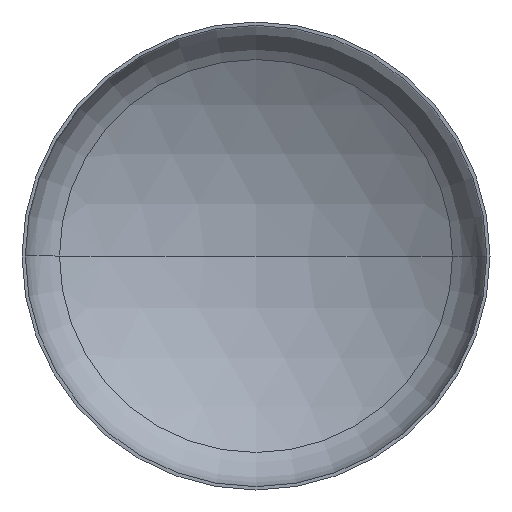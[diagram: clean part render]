
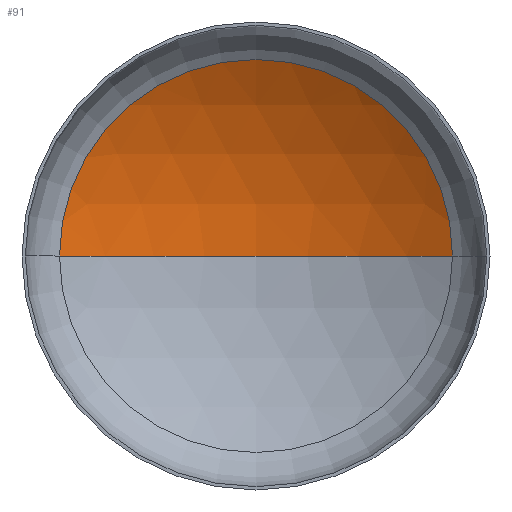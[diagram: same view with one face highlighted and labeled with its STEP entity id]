
A CAD part, front view. The second image highlights one B-rep face of the part: STEP entity #91.
In plain terms, the highlighted spherical face has radius 1120 mm.
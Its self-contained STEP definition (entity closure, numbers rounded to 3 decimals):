
#7 = AXIS2_PLACEMENT_3D ( 'NONE', #124, #126, #89 ) ;
#17 = EDGE_LOOP ( 'NONE', ( #59, #32, #156 ) ) ;
#25 = AXIS2_PLACEMENT_3D ( 'NONE', #175, #390, #406 ) ;
#32 = ORIENTED_EDGE ( 'NONE', *, *, #371, .T. ) ;
#52 = AXIS2_PLACEMENT_3D ( 'NONE', #248, #351, #378 ) ;
#59 = ORIENTED_EDGE ( 'NONE', *, *, #310, .F. ) ;
#72 = VERTEX_POINT ( 'NONE', #246 ) ;
#83 = VERTEX_POINT ( 'NONE', #319 ) ;
#89 = DIRECTION ( 'NONE',  ( 1., 0., 0. ) ) ;
#91 = ADVANCED_FACE ( 'NONE', ( #266 ), #393, .F. ) ;
#99 = CARTESIAN_POINT ( 'NONE',  ( 0., -740.325, 0. ) ) ;
#115 = VERTEX_POINT ( 'NONE', #314 ) ;
#124 = CARTESIAN_POINT ( 'NONE',  ( 0., 213.005, 0. ) ) ;
#126 = DIRECTION ( 'NONE',  ( 0., -1., 0. ) ) ;
#154 = AXIS2_PLACEMENT_3D ( 'NONE', #99, #235, #397 ) ;
#156 = ORIENTED_EDGE ( 'NONE', *, *, #347, .T. ) ;
#175 = CARTESIAN_POINT ( 'NONE',  ( 0., -740.325, 0. ) ) ;
#235 = DIRECTION ( 'NONE',  ( 0., 0., -1. ) ) ;
#246 = CARTESIAN_POINT ( 'NONE',  ( -587.845, 213.005, 0. ) ) ;
#248 = CARTESIAN_POINT ( 'NONE',  ( 0., -740.325, 0. ) ) ;
#266 = FACE_OUTER_BOUND ( 'NONE', #17, .T. ) ;
#310 = EDGE_CURVE ( 'NONE', #83, #72, #369, .T. ) ;
#314 = CARTESIAN_POINT ( 'NONE',  ( 587.845, 213.005, 0. ) ) ;
#319 = CARTESIAN_POINT ( 'NONE',  ( 0., 379.675, 0. ) ) ;
#338 = CIRCLE ( 'NONE', #154, 1120. ) ;
#345 = CIRCLE ( 'NONE', #7, 587.845 ) ;
#347 = EDGE_CURVE ( 'NONE', #115, #72, #345, .T. ) ;
#351 = DIRECTION ( 'NONE',  ( 0., 0., -1. ) ) ;
#369 = CIRCLE ( 'NONE', #25, 1120. ) ;
#371 = EDGE_CURVE ( 'NONE', #83, #115, #338, .T. ) ;
#378 = DIRECTION ( 'NONE',  ( -1., 0., 0. ) ) ;
#390 = DIRECTION ( 'NONE',  ( 0., 0., 1. ) ) ;
#393 = SPHERICAL_SURFACE ( 'NONE', #52, 1120. ) ;
#397 = DIRECTION ( 'NONE',  ( -1., 0., 0. ) ) ;
#406 = DIRECTION ( 'NONE',  ( 1., 0., 0. ) ) ;
